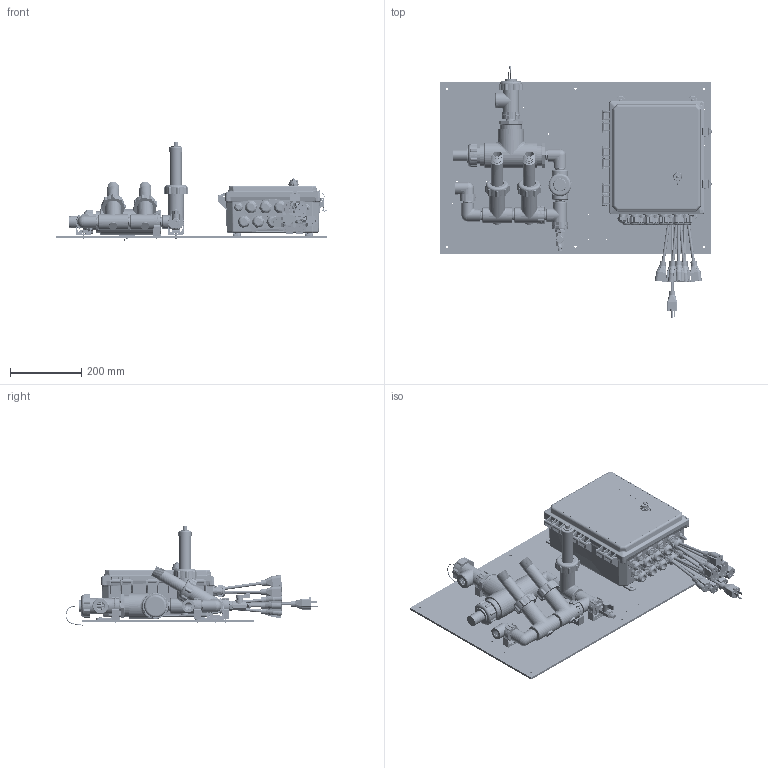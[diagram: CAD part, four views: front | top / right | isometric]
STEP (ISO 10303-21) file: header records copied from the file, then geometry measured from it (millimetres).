
FILE_DESCRIPTION (( 'STEP AP203' ), '1' );
FILE_NAME ('W900-CT-PCFHMN.STEP', '2019-04-17T17:05:07', ( '' ), ( '' ), 'SwSTEP 2.0', 'SolidWorks 2019', '' );
FILE_SCHEMA (( 'CONFIG_CONTROL_DESIGN' ));
Length unit declared in the file: inch
Products named in the file (53): SHELL-191638; 102961ws; W900-CT-PCFHMN; SHELL-102423; 102907; SHELL-103134; ISA0006; SHELL-102919; 192606-PIN; SHELL-102377_30075T211; SHELL-102884; 102903_102903; SHELL-102817-01; SHELL-103859_Cord1; SHELL-102880; SHELL-WEL-XXX-NN; SHELL-102377ws; SHELL-102938; SHELL-103425_4882K14; 102906; SHELL-191157; W900 Shell; SHELL-102986; SHELL-103778; IMS0013; 103860_Cord1; SHELL-102586; SHELL-102961_30075T212; SHELL-190996; SHELL-191652; SHELL-102881; SHELL-103283-FT; IMS0012; 103861; SHELL-102594; SHELL-103886_98273A320; IMS0005; SHELL-102061; IMS0035_91500A537; SHELL-103515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
Assembly tree (106 placements, depth 5):
  W900-CT-PCFHMN
    SHELL-102938
    W900 Shell
      W900 Shell
      SHELL-103283-FT  x4
      IMS0035_91500A537  x4
      SHELL-103893_91772A829  x4
      ISA0006
        102907
        102903_102903
        102906
        103860_Cord1  x3
        103861
      ISA0006
        102907
        102903_102903
        102906
        103860_Cord1  x3
        103861
      ISA0006
        102907
        102903_102903
        102906
        103860_Cord1  x3
        103861
      SHELL-103859_Cord1
    102961ws
      SHELL-102961_30075T212
      SHELL-103886_98273A320
    102961ws
      SHELL-102961_30075T212
      SHELL-103886_98273A320
    SHELL-102377ws
      SHELL-103886_98273A320
      SHELL-102377_30075T211
    SHELL-102377ws
      SHELL-103886_98273A320
      SHELL-102377_30075T211
    W900-CT-PCFHMN Manifold Only
      SHELL-102881
      SHELL-102061
      SHELL-102381_4880K345
      SHELL-102423  x3
      SHELL-102884  x3
      SHELL-103425_4882K14  x8
      SHELL-103515
        IMS0013
        IMS0012
      SHELL-191157
        SHELL-103133
        SHELL-103134  x2
        SHELL-102817-01
      SHELL-102586  x5
      SHELL-102594  x4
      SHELL-103963
      SHELL-191020-XX
        SHELL-102882
        SHELL-102919
        SHELL-102594
        SHELL-190996
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Bounding box: 764.69 x 712 x 278.81 mm (x, y, z)
Volume: 6449003.5 mm3; surface area: 2604079.2 mm2
Topology: 138 solids, 138 shells, 19740 faces, 51760 edges, 32368 vertices
Faces by surface type: plane 8095, cylinder 5895, bspline 3562, cone 1416, torus 631, sphere 141
Entity records: 669984 total; most frequent: CARTESIAN_POINT 342620, ORIENTED_EDGE 76270, DIRECTION 54099, EDGE_CURVE 38135, VERTEX_POINT 23942, AXIS2_PLACEMENT_3D 18802, LINE 16495, VECTOR 16495
